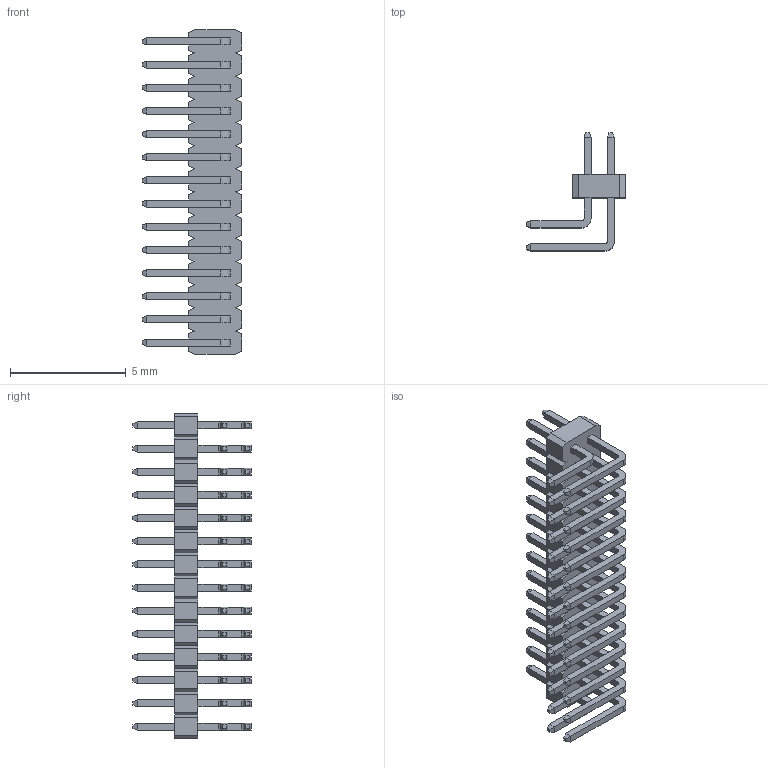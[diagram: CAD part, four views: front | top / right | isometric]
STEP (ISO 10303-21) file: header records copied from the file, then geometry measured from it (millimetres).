
FILE_DESCRIPTION (( 'STEP AP214' ), '1' );
FILE_NAME ('PZ100-2-14-W-1.0-XX(L5.1)（1.00 双排 弯排针 塑高1.0-HCTL）.STEP', '2024-09-24T03:51:04', ( '' ), ( '' ), 'SwSTEP 2.0', 'SolidWorks 2022', '' );
FILE_SCHEMA (( 'AUTOMOTIVE_DESIGN' ));
Length unit declared in the file: millimetre
Products named in the file (1): PZ100-2-14-W-1.0-XX(L5.1)（1.00 双排 弯排针 塑高1.0-HCTL）
Bounding box: 4.3 x 5.1 x 14 mm (x, y, z)
Volume: 47.2 mm3; surface area: 315.5 mm2
Topology: 1 solids, 1 shells, 704 faces, 1714 edges, 1068 vertices
Faces by surface type: plane 648, cylinder 56
Entity records: 26808 total; most frequent: CARTESIAN_POINT 3487, ORIENTED_EDGE 3428, DIRECTION 3236, EDGE_CURVE 1714, LINE 1602, VECTOR 1602, VERTEX_POINT 1068, AXIS2_PLACEMENT_3D 817
